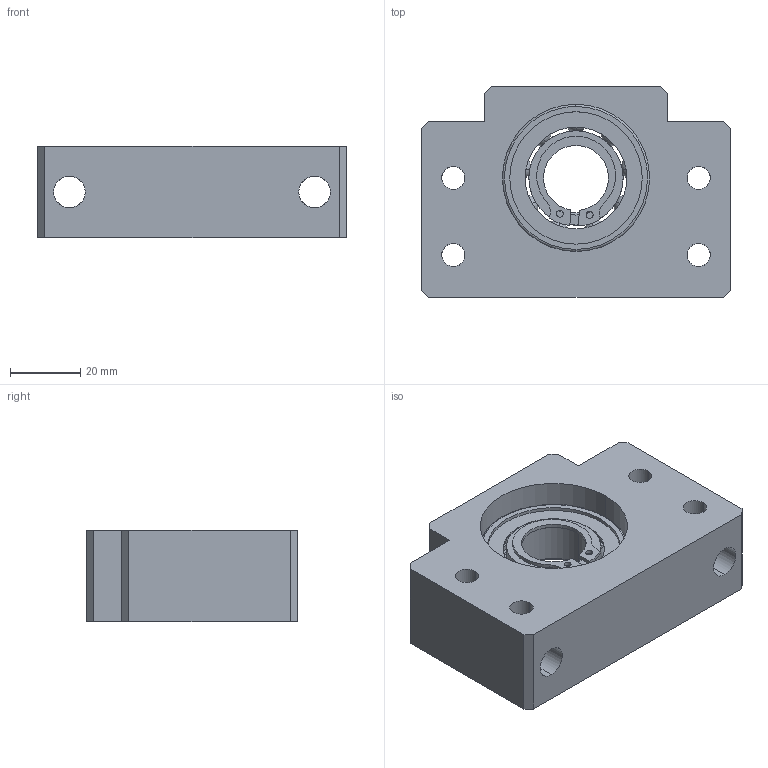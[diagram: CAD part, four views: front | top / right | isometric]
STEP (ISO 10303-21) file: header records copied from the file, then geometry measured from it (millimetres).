
FILE_DESCRIPTION (( 'STEP AP214' ), '1' );
FILE_NAME ('7.4012 BF20.STEP', '2026-03-06T06:43:53', ( '' ), ( '' ), 'SwSTEP 2.0', 'SolidWorks 2025', '' );
FILE_SCHEMA (( 'AUTOMOTIVE_DESIGN' ));
Length unit declared in the file: millimetre
Products named in the file (1): 7.4012 BF20
Bounding box: 88 x 60 x 26 mm (x, y, z)
Volume: 89139.4 mm3; surface area: 31178.1 mm2
Topology: 3 solids, 3 shells, 308 faces, 934 edges, 614 vertices
Faces by surface type: sphere 108, plane 77, cylinder 65, torus 41, bspline 17
Entity records: 23516 total; most frequent: CARTESIAN_POINT 13018, ORIENTED_EDGE 1860, DIRECTION 1521, EDGE_CURVE 930, AXIS2_PLACEMENT_3D 655, VERTEX_POINT 612, CIRCLE 363, B_SPLINE_CURVE_WITH_KNOTS 356
